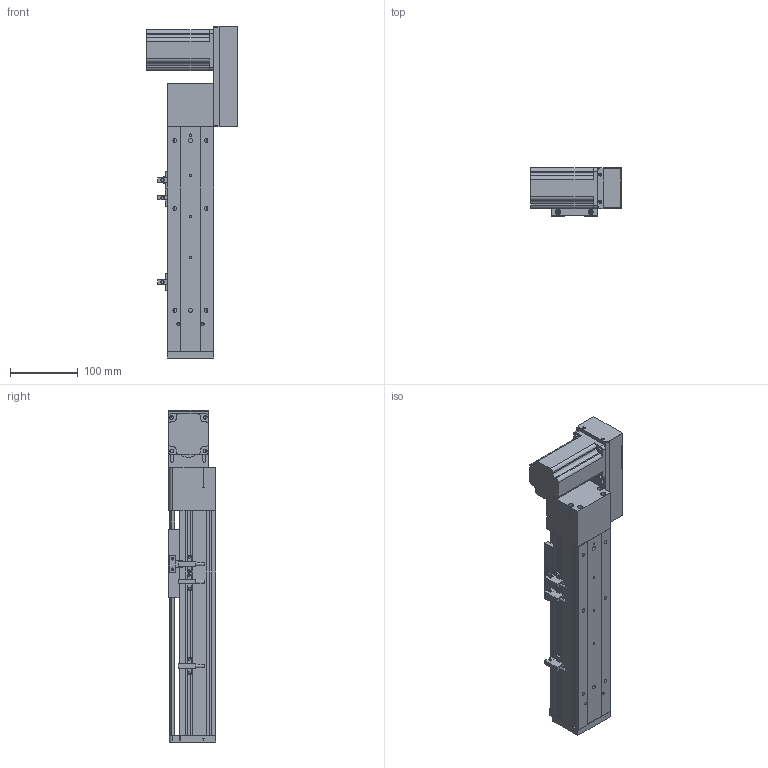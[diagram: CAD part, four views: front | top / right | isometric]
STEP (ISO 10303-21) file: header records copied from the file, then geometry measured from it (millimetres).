
FILE_DESCRIPTION (( 'STEP AP203' ), '1' );
FILE_NAME ('ML68-S150-CL.STEP', '2016-08-04T11:14:30', ( '' ), ( '' ), 'SwSTEP 2.0', 'SolidWorks 2014', '' );
FILE_SCHEMA (( 'CONFIG_CONTROL_DESIGN' ));
Length unit declared in the file: millimetre
Products named in the file (11): 三协电机MH201N2_預設; QS68左右折电机板罩子; ML68-BR傷啣; ML68-S150-CL; ML68菁釱^ML68-S150-CL; 60換覜結え; ML68傷啣; ML68奻裔^ML68-S150-CL; QS68酘衵殏萇儂啣; 換覜ん; ML68雄赽釱
Assembly tree (12 placements, depth 2):
  ML68-S150-CL
    ML68菁釱^ML68-S150-CL
    ML68奻裔^ML68-S150-CL
    60換覜結え
    ML68-BR傷啣
    換覜ん  x3
    ML68傷啣
    三协电机MH201N2_預設
    ML68雄赽釱
    QS68酘衵殏萇儂啣
    QS68左右折电机板罩子
Bounding box: 133.5 x 70.5 x 488.5 mm (x, y, z)
Volume: 1144766 mm3; surface area: 369068.5 mm2
Topology: 12 solids, 12 shells, 803 faces, 2200 edges, 1395 vertices
Faces by surface type: cylinder 360, plane 351, cone 92
Entity records: 25023 total; most frequent: CARTESIAN_POINT 4565, DIRECTION 4140, ORIENTED_EDGE 3908, EDGE_CURVE 1954, AXIS2_PLACEMENT_3D 1486, VERTEX_POINT 1283, LINE 1168, VECTOR 1168
